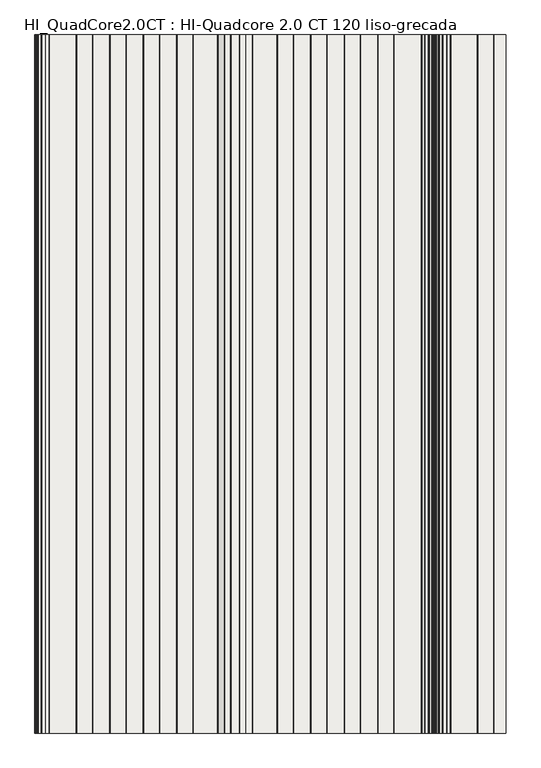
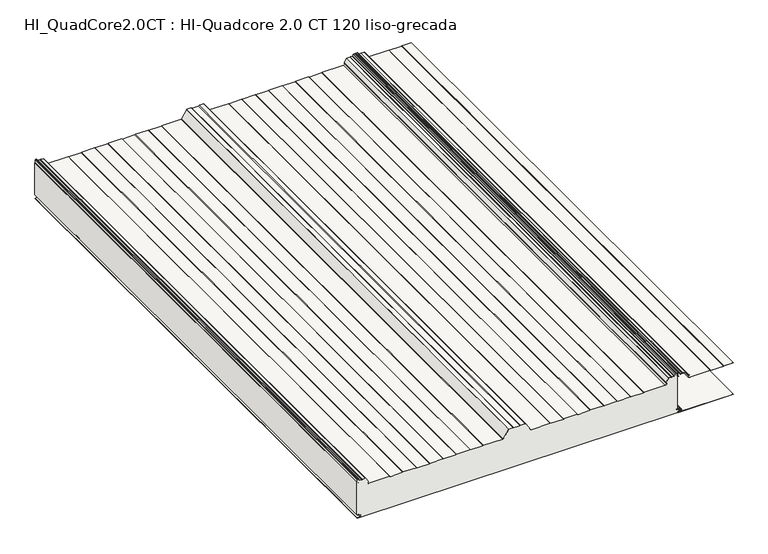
"""IFC4 building model written with IfcOpenShell, lengths in millimetres: slab geometry, HI_QuadCore2.0CT : HI-Quadcore 2.0 CT 120 liso-grecada."""

from ifc_helpers import new_model, si_unit, point, frame, frame_2d, origin, place, context, project, spatial, polyline, circle_curve, trimmed, segment, composite_curve, outline, extrude, source, transform, mapped, element, save
from ifc_brep_helpers import plane_surface, cylinder_surface, revolved_surface, advanced_brep


def hi_quadcore2_0ct_hi_quadcore_2_0_ct_120_liso_grecada_2a2bc950(model_context):
    return source(origin(), model_context, "Body", "SolidModel", [
        advanced_brep(
        [(1155.1475465, 0.0, 135.7425833), (1151.3824194, 0.0, 137.9163804), (1150.0, 0.0, 137.9163804), (1150.0, 0.0, 16.239302), (1157.510215, 0.0, 16.239302), (1157.510215, 0.0, 15.4391074), (1153.6125693, 0.0, 15.4391074), (1152.4319301, 0.0, 14.2584682), (1153.4276302, 0.0, 13.0866965), (1161.8278581, 0.0, 11.7547343), (1161.7995989, 0.0, 4.4809044), (1151.8467032, 0.0, 2.9844289), (1152.0100062, 0.0, 0.8), (2297.9590685, 0.0, 0.8), (2299.3391392, 0.0, 2.1800708), (2302.5664905, 0.0, 5.8294074), (2310.7843221, 0.0, 6.8264698), (2310.7843299, 0.0, 9.4135286), (2300.8450446, 0.0, 10.6192254), (2297.8324398, 0.0, 14.0237344), (2297.2282701, 0.0, 15.44), (2292.7624398, 0.0, 15.44), (2292.7624398, 0.0, 16.239302), (2300.0, 0.0, 16.239302), (2300.0, 0.0, 137.9163804), (2298.8824194, 0.0, 137.9163804), (2295.1172924, 0.0, 135.7425833), (2294.7172924, 0.0, 136.4354036), (2298.5824194, 0.0, 138.6669358), (2298.5824194, 0.0, 148.1), (2297.4824194, 0.0, 149.2), (2293.8888221, 0.0, 149.2), (2292.8725546, 0.0, 148.5209518), (2291.0157992, 0.0, 144.0383476), (2288.8631598, 0.0, 142.6), (2282.1371875, 0.0, 142.6), (2280.4324194, 0.0, 141.8110374), (2278.7276514, 0.0, 142.6), (2269.4004541, 0.0, 142.6), (2268.4939153, 0.0, 142.1230469), (2259.1558806, 0.0, 128.5361221), (2259.356723, 0.0, 127.0692788), (2260.3070878, 0.0, 126.2744554), (2257.4852773, 0.0, 119.2), (2181.3816122, 0.0, 119.2), (2179.6495614, 0.0, 118.2), (2134.6152775, 0.0, 118.2), (2132.8832267, 0.0, 119.2), (2085.3816122, 0.0, 119.2), (2083.6495614, 0.0, 118.2), (2038.6152775, 0.0, 118.2), (2036.8832267, 0.0, 119.2), (1989.3816122, 0.0, 119.2), (1987.6495614, 0.0, 118.2), (1942.6152775, 0.0, 118.2), (1940.8832267, 0.0, 119.2), (1893.3816122, 0.0, 119.2), (1891.6495614, 0.0, 118.2), (1846.6152775, 0.0, 118.2), (1844.8832267, 0.0, 119.2), (1775.9029123, 0.0, 119.2), (1773.9344839, 0.0, 120.2833287), (1755.9445057, 0.0, 148.6885573), (1755.0152048, 0.0, 149.2), (1738.8816122, 0.0, 149.2), (1736.283536, 0.0, 147.7), (1713.9813029, 0.0, 147.7), (1711.3832267, 0.0, 149.2), (1695.2496341, 0.0, 149.2), (1694.3203331, 0.0, 148.6885573), (1676.330355, 0.0, 120.2833287), (1674.3619266, 0.0, 119.2), (1605.3816122, 0.0, 119.2), (1603.6495614, 0.0, 118.2), (1558.6152775, 0.0, 118.2), (1556.8832267, 0.0, 119.2), (1509.3816122, 0.0, 119.2), (1507.6495614, 0.0, 118.2), (1462.6152775, 0.0, 118.2), (1460.8832267, 0.0, 119.2), (1413.3816122, 0.0, 119.2), (1411.6495614, 0.0, 118.2), (1366.6152775, 0.0, 118.2), (1364.8832267, 0.0, 119.2), (1317.3816122, 0.0, 119.2), (1315.6495614, 0.0, 118.2), (1270.6152775, 0.0, 118.2), (1268.8832267, 0.0, 119.2), (1192.7795617, 0.0, 119.2), (1189.9577511, 0.0, 126.2744555), (1190.9081159, 0.0, 127.0692788), (1191.1089583, 0.0, 128.5361221), (1181.7709236, 0.0, 142.1230469), (1180.8643848, 0.0, 142.6), (1171.5371875, 0.0, 142.6), (1169.8324194, 0.0, 141.8110374), (1168.1276514, 0.0, 142.6), (1161.4016791, 0.0, 142.6), (1159.2490397, 0.0, 144.0383476), (1157.3922843, 0.0, 148.5209518), (1156.3760168, 0.0, 149.2), (1152.7824194, 0.0, 149.2), (1151.6824194, 0.0, 148.1), (1151.6824194, 0.0, 138.6669358), (1155.5475465, 0.0, 136.4354036), (1155.1475465, 2000.0, 135.7425833), (1155.5475465, 2000.0, 136.4354036), (1151.6824194, 2000.0, 138.6669358), (1151.6824194, 2000.0, 148.1), (1152.7824194, 2000.0, 149.2), (1156.3760168, 2000.0, 149.2), (1157.3922843, 2000.0, 148.5209518), (1159.2490397, 2000.0, 144.0383476), (1161.4016791, 2000.0, 142.6), (1168.1276514, 2000.0, 142.6), (1169.8324194, 2000.0, 141.8110374), (1171.5371875, 2000.0, 142.6), (1180.8643848, 2000.0, 142.6), (1181.7709236, 2000.0, 142.1230469), (1191.1089583, 2000.0, 128.5361221), (1190.9081159, 2000.0, 127.0692788), (1189.9577511, 2000.0, 126.2744555), (1192.7795617, 2000.0, 119.2), (1268.8832267, 2000.0, 119.2), (1270.6152775, 2000.0, 118.2), (1315.6495614, 2000.0, 118.2), (1317.3816122, 2000.0, 119.2), (1364.8832267, 2000.0, 119.2), (1366.6152775, 2000.0, 118.2), (1411.6495614, 2000.0, 118.2), (1413.3816122, 2000.0, 119.2), (1460.8832267, 2000.0, 119.2), (1462.6152775, 2000.0, 118.2), (1507.6495614, 2000.0, 118.2), (1509.3816122, 2000.0, 119.2), (1556.8832267, 2000.0, 119.2), (1558.6152775, 2000.0, 118.2), (1603.6495614, 2000.0, 118.2), (1605.3816122, 2000.0, 119.2), (1674.3619266, 2000.0, 119.2), (1676.330355, 2000.0, 120.2833287), (1694.3203331, 2000.0, 148.6885573), (1695.2496341, 2000.0, 149.2), (1711.3832267, 2000.0, 149.2), (1713.9813029, 2000.0, 147.7), (1736.283536, 2000.0, 147.7), (1738.8816122, 2000.0, 149.2), (1755.0152048, 2000.0, 149.2), (1755.9445057, 2000.0, 148.6885573), (1773.9344839, 2000.0, 120.2833287), (1775.9029123, 2000.0, 119.2), (1844.8832267, 2000.0, 119.2), (1846.6152775, 2000.0, 118.2), (1891.6495614, 2000.0, 118.2), (1893.3816122, 2000.0, 119.2), (1940.8832267, 2000.0, 119.2), (1942.6152775, 2000.0, 118.2), (1987.6495614, 2000.0, 118.2), (1989.3816122, 2000.0, 119.2), (2036.8832267, 2000.0, 119.2), (2038.6152775, 2000.0, 118.2), (2083.6495614, 2000.0, 118.2), (2085.3816122, 2000.0, 119.2), (2132.8832267, 2000.0, 119.2), (2134.6152775, 2000.0, 118.2), (2179.6495614, 2000.0, 118.2), (2181.3816122, 2000.0, 119.2), (2257.4852773, 2000.0, 119.2), (2260.3070878, 2000.0, 126.2744554), (2259.356723, 2000.0, 127.0692788), (2259.1558806, 2000.0, 128.5361221), (2268.4939153, 2000.0, 142.1230469), (2269.4004541, 2000.0, 142.6), (2278.7276514, 2000.0, 142.6), (2280.4324194, 2000.0, 141.8110374), (2282.1371875, 2000.0, 142.6), (2288.8631598, 2000.0, 142.6), (2291.0157992, 2000.0, 144.0383476), (2292.8725546, 2000.0, 148.5209518), (2293.8888221, 2000.0, 149.2), (2297.4824194, 2000.0, 149.2), (2298.5824194, 2000.0, 148.1), (2298.5824194, 2000.0, 138.6669358), (2294.7172924, 2000.0, 136.4354036), (2295.1172924, 2000.0, 135.7425833), (2298.8824194, 2000.0, 137.9163804), (2300.0, 2000.0, 137.9163804), (2300.0, 2000.0, 16.239302), (2292.7624398, 2000.0, 16.239302), (2292.7624398, 2000.0, 15.44), (2297.2282701, 2000.0, 15.44), (2297.8324398, 2000.0, 14.0237344), (2300.8450446, 2000.0, 10.6192254), (2310.7843299, 2000.0, 9.4135286), (2310.7843221, 2000.0, 6.8264698), (2302.5664905, 2000.0, 5.8294074), (2299.3391392, 2000.0, 2.1800708), (2297.9590685, 2000.0, 0.8), (1152.0100062, 2000.0, 0.8), (1151.8467032, 2000.0, 2.9844289), (1161.7995989, 2000.0, 4.4809044), (1161.8278581, 2000.0, 11.7547343), (1153.4273037, 2000.0, 13.0846342), (1152.4319301, 2000.0, 14.2584682), (1153.6125693, 2000.0, 15.4391074), (1157.510215, 2000.0, 15.4391074), (1157.510215, 2000.0, 16.239302), (1150.0, 2000.0, 16.239302), (1150.0, 2000.0, 137.9163804), (1151.3824194, 2000.0, 137.9163804)],
        [
            (0, 1),
            (1, 2),
            (2, 3),
            (3, 4),
            (4, 5),
            (5, 6),
            (6, 7, circle_curve(frame((1153.6125693, 0.0, 14.2584682), z_axis=(0.0, -1.0, 0.0), x_axis=(1.0, 0.0, 0.0)), 1.1806391)),
            (7, 8, circle_curve(frame((1153.6121809, 0.0, 14.2524448), z_axis=(0.0, -1.0, 0.0), x_axis=(1.0, 0.0, 0.0)), 1.1802661)),
            (8, 9),
            (9, 10, circle_curve(frame((1161.2524398, 0.0, 8.12), z_axis=(0.0, 1.0, 0.0), x_axis=(1.0, 0.0, 0.0)), 3.68)),
            (10, 11),
            (11, 12, circle_curve(frame((1152.0100062, 0.0, 1.8983185), z_axis=(0.0, -1.0, 0.0), x_axis=(1.0, 0.0, 0.0)), 1.0983185)),
            (12, 13),
            (13, 14, circle_curve(frame((2297.9590685, 0.0, 2.1800708), z_axis=(0.0, -1.0, 0.0), x_axis=(1.0, 0.0, 0.0)), 1.3800708)),
            (14, 15, circle_curve(frame((2303.0160638, 0.0, 2.1800708), z_axis=(0.0, 1.0, 0.0), x_axis=(1.0, 0.0, 0.0)), 3.6769246)),
            (15, 16),
            (16, 17, circle_curve(frame((2310.5224398, 0.0, 8.12), z_axis=(0.0, -1.0, 0.0), x_axis=(1.0, 0.0, 0.0)), 1.3197737)),
            (17, 18),
            (18, 19, circle_curve(frame((2301.2624398, 0.0, 14.0237344), z_axis=(0.0, 1.0, 0.0), x_axis=(1.0, 0.0, 0.0)), 3.43)),
            (19, 20, circle_curve(frame((2295.8703839, 0.0, 14.0237344), z_axis=(0.0, -1.0, 0.0), x_axis=(1.0, 0.0, 0.0)), 1.9620559)),
            (20, 21),
            (21, 22),
            (22, 23),
            (23, 24),
            (24, 25),
            (25, 26),
            (26, 27),
            (27, 28),
            (28, 29),
            (29, 30, circle_curve(frame((2297.4824194, 0.0, 148.1), z_axis=(0.0, -1.0, 0.0), x_axis=(1.0, 0.0, 0.0)), 1.1)),
            (30, 31),
            (31, 32, circle_curve(frame((2293.8888221, 0.0, 148.1), z_axis=(0.0, -1.0, 0.0), x_axis=(1.0, 0.0, 0.0)), 1.1)),
            (32, 33),
            (33, 34, circle_curve(frame((2288.8631598, 0.0, 144.93), z_axis=(0.0, 1.0, 0.0), x_axis=(1.0, 0.0, 0.0)), 2.33)),
            (34, 35),
            (35, 36),
            (36, 37),
            (37, 38),
            (38, 39, circle_curve(frame((2269.4004541, 0.0, 141.5), z_axis=(0.0, -1.0, 0.0), x_axis=(1.0, 0.0, 0.0)), 1.1)),
            (39, 40),
            (40, 41, circle_curve(frame((2260.0624194, 0.0, 127.9130753), z_axis=(0.0, -1.0, 0.0), x_axis=(1.0, 0.0, 0.0)), 1.1)),
            (41, 42),
            (42, 43, circle_curve(frame((2257.4852773, 0.0, 123.3), z_axis=(0.0, 1.0, 0.0), x_axis=(1.0, 0.0, 0.0)), 4.1)),
            (43, 44),
            (44, 45),
            (45, 46),
            (46, 47),
            (47, 48),
            (48, 49),
            (49, 50),
            (50, 51),
            (51, 52),
            (52, 53),
            (53, 54),
            (54, 55),
            (55, 56),
            (56, 57),
            (57, 58),
            (58, 59),
            (59, 60),
            (60, 61, circle_curve(frame((1775.9029123, 0.0, 121.53), z_axis=(0.0, 1.0, 0.0), x_axis=(1.0, 0.0, 0.0)), 2.33)),
            (61, 62),
            (62, 63, circle_curve(frame((1755.0152048, 0.0, 148.1), z_axis=(0.0, -1.0, 0.0), x_axis=(1.0, 0.0, 0.0)), 1.1)),
            (63, 64),
            (64, 65),
            (65, 66),
            (66, 67),
            (67, 68),
            (68, 69, circle_curve(frame((1695.2496341, 0.0, 148.1), z_axis=(0.0, -1.0, 0.0), x_axis=(1.0, 0.0, 0.0)), 1.1)),
            (69, 70),
            (70, 71, circle_curve(frame((1674.3619266, 0.0, 121.53), z_axis=(0.0, 1.0, 0.0), x_axis=(1.0, 0.0, 0.0)), 2.33)),
            (71, 72),
            (72, 73),
            (73, 74),
            (74, 75),
            (75, 76),
            (76, 77),
            (77, 78),
            (78, 79),
            (79, 80),
            (80, 81),
            (81, 82),
            (82, 83),
            (83, 84),
            (84, 85),
            (85, 86),
            (86, 87),
            (87, 88),
            (88, 89, circle_curve(frame((1192.7795617, 0.0, 123.3), z_axis=(0.0, 1.0, 0.0), x_axis=(1.0, 0.0, 0.0)), 4.1)),
            (89, 90),
            (90, 91, circle_curve(frame((1190.2024195, 0.0, 127.9130752), z_axis=(0.0, -1.0, 0.0), x_axis=(1.0, 0.0, 0.0)), 1.1)),
            (91, 92),
            (92, 93, circle_curve(frame((1180.8643848, 0.0, 141.5), z_axis=(0.0, -1.0, 0.0), x_axis=(1.0, 0.0, 0.0)), 1.1)),
            (93, 94),
            (94, 95),
            (95, 96),
            (96, 97),
            (97, 98, circle_curve(frame((1161.4016791, 0.0, 144.93), z_axis=(0.0, 1.0, 0.0), x_axis=(1.0, 0.0, 0.0)), 2.33)),
            (98, 99),
            (99, 100, circle_curve(frame((1156.3760168, 0.0, 148.1), z_axis=(0.0, -1.0, 0.0), x_axis=(1.0, 0.0, 0.0)), 1.1)),
            (100, 101),
            (101, 102, circle_curve(frame((1152.7824194, 0.0, 148.1), z_axis=(0.0, -1.0, 0.0), x_axis=(1.0, 0.0, 0.0)), 1.1)),
            (102, 103),
            (103, 104),
            (104, 0),
            (105, 106),
            (106, 107),
            (107, 108),
            (108, 109, circle_curve(frame((1152.7824194, 2000.0, 148.1), z_axis=(0.0, 1.0, 0.0), x_axis=(1.0, 0.0, 0.0)), 1.1)),
            (109, 110),
            (110, 111, circle_curve(frame((1156.3760168, 2000.0, 148.1), z_axis=(0.0, 1.0, 0.0), x_axis=(1.0, 0.0, 0.0)), 1.1)),
            (111, 112),
            (112, 113, circle_curve(frame((1161.4016791, 2000.0, 144.93), z_axis=(0.0, -1.0, 0.0), x_axis=(1.0, 0.0, 0.0)), 2.33)),
            (113, 114),
            (114, 115),
            (115, 116),
            (116, 117),
            (117, 118, circle_curve(frame((1180.8643848, 2000.0, 141.5), z_axis=(0.0, 1.0, 0.0), x_axis=(1.0, 0.0, 0.0)), 1.1)),
            (118, 119),
            (119, 120, circle_curve(frame((1190.2024195, 2000.0, 127.9130752), z_axis=(0.0, 1.0, 0.0), x_axis=(1.0, 0.0, 0.0)), 1.1)),
            (120, 121),
            (121, 122, circle_curve(frame((1192.7795617, 2000.0, 123.3), z_axis=(0.0, -1.0, 0.0), x_axis=(1.0, 0.0, 0.0)), 4.1)),
            (122, 123),
            (123, 124),
            (124, 125),
            (125, 126),
            (126, 127),
            (127, 128),
            (128, 129),
            (129, 130),
            (130, 131),
            (131, 132),
            (132, 133),
            (133, 134),
            (134, 135),
            (135, 136),
            (136, 137),
            (137, 138),
            (138, 139),
            (139, 140, circle_curve(frame((1674.3619266, 2000.0, 121.53), z_axis=(0.0, -1.0, 0.0), x_axis=(1.0, 0.0, 0.0)), 2.33)),
            (140, 141),
            (141, 142, circle_curve(frame((1695.2496341, 2000.0, 148.1), z_axis=(0.0, 1.0, 0.0), x_axis=(1.0, 0.0, 0.0)), 1.1)),
            (142, 143),
            (143, 144),
            (144, 145),
            (145, 146),
            (146, 147),
            (147, 148, circle_curve(frame((1755.0152048, 2000.0, 148.1), z_axis=(0.0, 1.0, 0.0), x_axis=(1.0, 0.0, 0.0)), 1.1)),
            (148, 149),
            (149, 150, circle_curve(frame((1775.9029123, 2000.0, 121.53), z_axis=(0.0, -1.0, 0.0), x_axis=(1.0, 0.0, 0.0)), 2.33)),
            (150, 151),
            (151, 152),
            (152, 153),
            (153, 154),
            (154, 155),
            (155, 156),
            (156, 157),
            (157, 158),
            (158, 159),
            (159, 160),
            (160, 161),
            (161, 162),
            (162, 163),
            (163, 164),
            (164, 165),
            (165, 166),
            (166, 167),
            (167, 168, circle_curve(frame((2257.4852773, 2000.0, 123.3), z_axis=(0.0, -1.0, 0.0), x_axis=(1.0, 0.0, 0.0)), 4.1)),
            (168, 169),
            (169, 170, circle_curve(frame((2260.0624194, 2000.0, 127.9130753), z_axis=(0.0, 1.0, 0.0), x_axis=(1.0, 0.0, 0.0)), 1.1)),
            (170, 171),
            (171, 172, circle_curve(frame((2269.4004541, 2000.0, 141.5), z_axis=(0.0, 1.0, 0.0), x_axis=(1.0, 0.0, 0.0)), 1.1)),
            (172, 173),
            (173, 174),
            (174, 175),
            (175, 176),
            (176, 177, circle_curve(frame((2288.8631598, 2000.0, 144.93), z_axis=(0.0, -1.0, 0.0), x_axis=(1.0, 0.0, 0.0)), 2.33)),
            (177, 178),
            (178, 179, circle_curve(frame((2293.8888221, 2000.0, 148.1), z_axis=(0.0, 1.0, 0.0), x_axis=(1.0, 0.0, 0.0)), 1.1)),
            (179, 180),
            (180, 181, circle_curve(frame((2297.4824194, 2000.0, 148.1), z_axis=(0.0, 1.0, 0.0), x_axis=(1.0, 0.0, 0.0)), 1.1)),
            (181, 182),
            (182, 183),
            (183, 184),
            (184, 185),
            (185, 186),
            (186, 187),
            (187, 188),
            (188, 189),
            (189, 190),
            (190, 191, circle_curve(frame((2295.8703839, 2000.0, 14.0237344), z_axis=(0.0, 1.0, 0.0), x_axis=(1.0, 0.0, 0.0)), 1.9620559)),
            (191, 192, circle_curve(frame((2301.2624398, 2000.0, 14.0237344), z_axis=(0.0, -1.0, 0.0), x_axis=(1.0, 0.0, 0.0)), 3.43)),
            (192, 193),
            (193, 194, circle_curve(frame((2310.5224398, 2000.0, 8.12), z_axis=(0.0, 1.0, 0.0), x_axis=(1.0, 0.0, 0.0)), 1.3197737)),
            (194, 195),
            (195, 196, circle_curve(frame((2303.0160638, 2000.0, 2.1800708), z_axis=(0.0, -1.0, 0.0), x_axis=(1.0, 0.0, 0.0)), 3.6769246)),
            (196, 197, circle_curve(frame((2297.9590685, 2000.0, 2.1800708), z_axis=(0.0, 1.0, 0.0), x_axis=(1.0, 0.0, 0.0)), 1.3800708)),
            (197, 198),
            (198, 199, circle_curve(frame((1152.0100062, 2000.0, 1.8983185), z_axis=(0.0, 1.0, 0.0), x_axis=(1.0, 0.0, 0.0)), 1.0983185)),
            (199, 200),
            (200, 201, circle_curve(frame((1161.2524398, 2000.0, 8.12), z_axis=(0.0, -1.0, 0.0), x_axis=(1.0, 0.0, 0.0)), 3.68)),
            (201, 202),
            (202, 203, circle_curve(frame((1153.6121809, 2000.0, 14.2524448), z_axis=(0.0, 1.0, 0.0), x_axis=(1.0, 0.0, 0.0)), 1.1802661)),
            (203, 204, circle_curve(frame((1153.6125693, 2000.0, 14.2584682), z_axis=(0.0, 1.0, 0.0), x_axis=(1.0, 0.0, 0.0)), 1.1806391)),
            (204, 205),
            (205, 206),
            (206, 207),
            (207, 208),
            (208, 209),
            (209, 105),
            (0, 105),
            (209, 1),
            (208, 2),
            (207, 3),
            (186, 24),
            (23, 187),
            (185, 25),
            (184, 26),
            (183, 27),
            (182, 28),
            (181, 29),
            (180, 30),
            (179, 31),
            (178, 32),
            (177, 33),
            (176, 34),
            (175, 35),
            (174, 36),
            (173, 37),
            (172, 38),
            (171, 39),
            (170, 40),
            (169, 41),
            (168, 42),
            (167, 43),
            (166, 44),
            (165, 45),
            (164, 46),
            (163, 47),
            (162, 48),
            (161, 49),
            (160, 50),
            (159, 51),
            (158, 52),
            (157, 53),
            (156, 54),
            (155, 55),
            (154, 56),
            (153, 57),
            (152, 58),
            (151, 59),
            (150, 60),
            (149, 61),
            (148, 62),
            (147, 63),
            (146, 64),
            (145, 65),
            (144, 66),
            (143, 67),
            (142, 68),
            (141, 69),
            (140, 70),
            (139, 71),
            (138, 72),
            (137, 73),
            (136, 74),
            (135, 75),
            (134, 76),
            (133, 77),
            (132, 78),
            (131, 79),
            (130, 80),
            (129, 81),
            (128, 82),
            (127, 83),
            (126, 84),
            (125, 85),
            (124, 86),
            (123, 87),
            (122, 88),
            (121, 89),
            (120, 90),
            (119, 91),
            (118, 92),
            (117, 93),
            (116, 94),
            (115, 95),
            (114, 96),
            (113, 97),
            (112, 98),
            (111, 99),
            (110, 100),
            (109, 101),
            (108, 102),
            (107, 103),
            (106, 104),
            (22, 188),
            (206, 4),
            (205, 5),
            (204, 6),
            (203, 7),
            (202, 8),
            (201, 9),
            (200, 10),
            (199, 11),
            (198, 12),
            (197, 13),
            (196, 14),
            (195, 15),
            (194, 16),
            (193, 17),
            (192, 18),
            (191, 19),
            (190, 20),
            (189, 21),
        ],
        [
            plane_surface(frame((1151.3824194, 0.0, 137.9163804), z_axis=(0.0, -1.0, 0.0), x_axis=(-0.8660254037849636, 0.0, 0.4999999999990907))),
            plane_surface(frame((1151.3824194, 2000.0, 137.9163804), z_axis=(0.0, 1.0, 0.0), x_axis=(0.8660254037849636, 0.0, -0.4999999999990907))),
            plane_surface(frame((1155.1475465, 0.0, 135.7425833), z_axis=(0.4999999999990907, 0.0, 0.8660254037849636), x_axis=(0.0, 1.0, 0.0))),
            plane_surface(frame((1151.3824194, 0.0, 137.9163804), z_axis=(0.0, 0.0, 1.0), x_axis=(0.0, 1.0, 0.0))),
            plane_surface(frame((1150.0, 0.0, 137.9163804), z_axis=(-1.0, 0.0, 0.0), x_axis=(0.0, 1.0, 0.0))),
            plane_surface(frame((2300.0, 0.0, 110.0), z_axis=(1.0, 0.0, 0.0), x_axis=(0.0, 1.0, 0.0))),
            plane_surface(frame((2300.0, 0.0, 137.9163804), z_axis=(0.0, 0.0, 1.0), x_axis=(0.0, 1.0, 0.0))),
            plane_surface(frame((2298.8824194, 0.0, 137.9163804), z_axis=(-0.4999999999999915, 0.0, 0.8660254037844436), x_axis=(0.0, 1.0, 0.0))),
            plane_surface(frame((2295.1172924, 0.0, 135.7425833), z_axis=(0.8660254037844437, 0.0, 0.49999999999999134), x_axis=(0.0, 1.0, 0.0))),
            plane_surface(frame((2294.7172924, 0.0, 136.4354036), z_axis=(0.4999999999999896, 0.0, -0.8660254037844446), x_axis=(0.0, 1.0, 0.0))),
            plane_surface(frame((2298.5824194, 0.0, 138.6669358), z_axis=(1.0, 0.0, 0.0), x_axis=(0.0, 1.0, 0.0))),
            cylinder_surface(frame((2297.4824194, 2000.0, 148.1), z_axis=(0.0, -1.0, 0.0), x_axis=(1.0, 0.0, 0.0)), 1.1),
            plane_surface(frame((2297.4824194, 0.0, 149.2), z_axis=(0.0, 0.0, 1.0), x_axis=(0.0, 1.0, 0.0))),
            cylinder_surface(frame((2293.8888221, 2000.0, 148.1), z_axis=(0.0, -1.0, 0.0), x_axis=(1.0, 0.0, 0.0)), 1.1),
            plane_surface(frame((2292.8725546, 0.0, 148.5209518), z_axis=(-0.9238795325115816, 0.0, 0.3826834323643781), x_axis=(0.0, 1.0, 0.0))),
            revolved_surface(polyline([(2291.1931598, 2000.0, 144.93), (2291.1931598, 0.0, 144.93)]), (2288.8631598, 2000.0, 144.93), (0.0, 1.0, 0.0)),
            plane_surface(frame((2288.8631598, 0.0, 142.6), z_axis=(0.0, 0.0, 1.0), x_axis=(0.0, 1.0, 0.0))),
            plane_surface(frame((2282.1371875, 0.0, 142.6), z_axis=(-0.4199999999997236, 0.0, 0.9075241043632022), x_axis=(0.0, 1.0, 0.0))),
            plane_surface(frame((2280.4324194, 0.0, 141.8110374), z_axis=(0.42000000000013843, 0.0, 0.9075241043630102), x_axis=(0.0, 1.0, 0.0))),
            plane_surface(frame((2278.7276514, 0.0, 142.6), z_axis=(0.0, 0.0, 1.0), x_axis=(0.0, 1.0, 0.0))),
            cylinder_surface(frame((2269.4004541, 2000.0, 141.5), z_axis=(0.0, -1.0, 0.0), x_axis=(1.0, 0.0, 0.0)), 1.1),
            plane_surface(frame((2268.4939153, 0.0, 142.1230469), z_axis=(-0.824126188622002, 0.0, 0.5664062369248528), x_axis=(0.0, 1.0, 0.0))),
            cylinder_surface(frame((2260.0624194, 2000.0, 127.9130753), z_axis=(0.0, -1.0, 0.0), x_axis=(1.0, 0.0, 0.0)), 1.1),
            plane_surface(frame((2259.356723, 0.0, 127.0692788), z_axis=(-0.6415422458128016, 0.0, -0.7670877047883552), x_axis=(0.0, 1.0, 0.0))),
            revolved_surface(polyline([(2261.5852772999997, 2000.0, 123.3), (2261.5852772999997, 0.0, 123.3)]), (2257.4852773, 2000.0, 123.3), (0.0, 1.0, 0.0)),
            plane_surface(frame((2257.4852773, 0.0, 119.2), z_axis=(0.0, 0.0, 1.0), x_axis=(0.0, 1.0, 0.0))),
            plane_surface(frame((2181.3816122, 0.0, 119.2), z_axis=(-0.4999999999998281, 0.0, 0.866025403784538), x_axis=(0.0, 1.0, 0.0))),
            plane_surface(frame((2179.6495614, 0.0, 118.2), z_axis=(0.0, 0.0, 1.0), x_axis=(0.0, 1.0, 0.0))),
            plane_surface(frame((2134.6152775, 0.0, 118.2), z_axis=(0.499999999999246, 0.0, 0.866025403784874), x_axis=(0.0, 1.0, 0.0))),
            plane_surface(frame((2132.8832267, 0.0, 119.2), z_axis=(0.0, 0.0, 1.0), x_axis=(0.0, 1.0, 0.0))),
            plane_surface(frame((2085.3816122, 0.0, 119.2), z_axis=(-0.49999999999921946, 0.0, 0.8660254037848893), x_axis=(0.0, 1.0, 0.0))),
            plane_surface(frame((2083.6495614, 0.0, 118.2), z_axis=(0.0, 0.0, 1.0), x_axis=(0.0, 1.0, 0.0))),
            plane_surface(frame((2038.6152775, 0.0, 118.2), z_axis=(0.4999999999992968, 0.0, 0.8660254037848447), x_axis=(0.0, 1.0, 0.0))),
            plane_surface(frame((2036.8832267, 0.0, 119.2), z_axis=(0.0, 0.0, 1.0), x_axis=(0.0, 1.0, 0.0))),
            plane_surface(frame((1989.3816122, 0.0, 119.2), z_axis=(-0.4999999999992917, 0.0, 0.8660254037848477), x_axis=(0.0, 1.0, 0.0))),
            plane_surface(frame((1987.6495614, 0.0, 118.2), z_axis=(0.0, 0.0, 1.0), x_axis=(0.0, 1.0, 0.0))),
            plane_surface(frame((1942.6152775, 0.0, 118.2), z_axis=(0.49999999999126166, 0.0, 0.8660254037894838), x_axis=(0.0, 1.0, 0.0))),
            plane_surface(frame((1940.8832267, 0.0, 119.2), z_axis=(0.0, 0.0, 1.0), x_axis=(0.0, 1.0, 0.0))),
            plane_surface(frame((1893.3816122, 0.0, 119.2), z_axis=(-0.5000000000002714, 0.0, 0.8660254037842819), x_axis=(0.0, 1.0, 0.0))),
            plane_surface(frame((1891.6495614, 0.0, 118.2), z_axis=(0.0, 0.0, 1.0), x_axis=(0.0, 1.0, 0.0))),
            plane_surface(frame((1846.6152775, 0.0, 118.2), z_axis=(0.5000000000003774, 0.0, 0.8660254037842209), x_axis=(0.0, 1.0, 0.0))),
            plane_surface(frame((1844.8832267, 0.0, 119.2), z_axis=(0.0, 0.0, 1.0), x_axis=(0.0, 1.0, 0.0))),
            revolved_surface(polyline([(1778.2329123, 2000.0, 121.53), (1778.2329123, 0.0, 121.53)]), (1775.9029123, 2000.0, 121.53), (0.0, 1.0, 0.0)),
            plane_surface(frame((1773.9344839, 0.0, 120.2833287), z_axis=(0.8448190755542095, 0.0, 0.5350520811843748), x_axis=(0.0, 1.0, 0.0))),
            cylinder_surface(frame((1755.0152048, 2000.0, 148.1), z_axis=(0.0, -1.0, 0.0), x_axis=(1.0, 0.0, 0.0)), 1.1),
            plane_surface(frame((1755.0152048, 0.0, 149.2), z_axis=(0.0, 0.0, 1.0), x_axis=(0.0, 1.0, 0.0))),
            plane_surface(frame((1738.8816122, 0.0, 149.2), z_axis=(-0.4999999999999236, 0.0, 0.8660254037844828), x_axis=(0.0, 1.0, 0.0))),
            plane_surface(frame((1736.283536, 0.0, 147.7), z_axis=(0.0, 0.0, 1.0), x_axis=(0.0, 1.0, 0.0))),
            plane_surface(frame((1713.9813029, 0.0, 147.7), z_axis=(0.5000000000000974, 0.0, 0.8660254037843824), x_axis=(0.0, 1.0, 0.0))),
            plane_surface(frame((1711.3832267, 0.0, 149.2), z_axis=(0.0, 0.0, 1.0), x_axis=(0.0, 1.0, 0.0))),
            cylinder_surface(frame((1695.2496341, 2000.0, 148.1), z_axis=(0.0, -1.0, 0.0), x_axis=(1.0, 0.0, 0.0)), 1.1),
            plane_surface(frame((1694.3203331, 0.0, 148.6885573), z_axis=(-0.8448190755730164, 0.0, 0.5350520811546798), x_axis=(0.0, 1.0, 0.0))),
            revolved_surface(polyline([(1676.6919266, 2000.0, 121.53), (1676.6919266, 0.0, 121.53)]), (1674.3619266, 2000.0, 121.53), (0.0, 1.0, 0.0)),
            plane_surface(frame((1674.3619266, 0.0, 119.2), z_axis=(0.0, 0.0, 1.0), x_axis=(0.0, 1.0, 0.0))),
            plane_surface(frame((1605.3816122, 0.0, 119.2), z_axis=(-0.5000000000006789, 0.0, 0.8660254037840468), x_axis=(0.0, 1.0, 0.0))),
            plane_surface(frame((1603.6495614, 0.0, 118.2), z_axis=(0.0, 0.0, 1.0), x_axis=(0.0, 1.0, 0.0))),
            plane_surface(frame((1558.6152775, 0.0, 118.2), z_axis=(0.49999999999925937, 0.0, 0.8660254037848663), x_axis=(0.0, 1.0, 0.0))),
            plane_surface(frame((1556.8832267, 0.0, 119.2), z_axis=(0.0, 0.0, 1.0), x_axis=(0.0, 1.0, 0.0))),
            plane_surface(frame((1509.3816122, 0.0, 119.2), z_axis=(-0.500000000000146, 0.0, 0.8660254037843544), x_axis=(0.0, 1.0, 0.0))),
            plane_surface(frame((1507.6495614, 0.0, 118.2), z_axis=(0.0, 0.0, 1.0), x_axis=(0.0, 1.0, 0.0))),
            plane_surface(frame((1462.6152775, 0.0, 118.2), z_axis=(0.49999999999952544, 0.0, 0.8660254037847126), x_axis=(0.0, 1.0, 0.0))),
            plane_surface(frame((1460.8832267, 0.0, 119.2), z_axis=(0.0, 0.0, 1.0), x_axis=(0.0, 1.0, 0.0))),
            plane_surface(frame((1413.3816122, 0.0, 119.2), z_axis=(-0.4999999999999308, 0.0, 0.8660254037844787), x_axis=(0.0, 1.0, 0.0))),
            plane_surface(frame((1411.6495614, 0.0, 118.2), z_axis=(0.0, 0.0, 1.0), x_axis=(0.0, 1.0, 0.0))),
            plane_surface(frame((1366.6152775, 0.0, 118.2), z_axis=(0.500000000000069, 0.0, 0.866025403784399), x_axis=(0.0, 1.0, 0.0))),
            plane_surface(frame((1364.8832267, 0.0, 119.2), z_axis=(0.0, 0.0, 1.0), x_axis=(0.0, 1.0, 0.0))),
            plane_surface(frame((1317.3816122, 0.0, 119.2), z_axis=(-0.5000000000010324, 0.0, 0.8660254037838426), x_axis=(0.0, 1.0, 0.0))),
            plane_surface(frame((1315.6495614, 0.0, 118.2), z_axis=(0.0, 0.0, 1.0), x_axis=(0.0, 1.0, 0.0))),
            plane_surface(frame((1270.6152775, 0.0, 118.2), z_axis=(0.4999999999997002, 0.0, 0.8660254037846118), x_axis=(0.0, 1.0, 0.0))),
            plane_surface(frame((1268.8832267, 0.0, 119.2), z_axis=(0.0, 0.0, 1.0), x_axis=(0.0, 1.0, 0.0))),
            revolved_surface(polyline([(1196.8795616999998, 2000.0, 123.3), (1196.8795616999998, 0.0, 123.3)]), (1192.7795617, 2000.0, 123.3), (0.0, 1.0, 0.0)),
            plane_surface(frame((1189.9577511, 0.0, 126.2744555), z_axis=(0.6415422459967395, 0.0, -0.7670877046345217), x_axis=(0.0, 1.0, 0.0))),
            cylinder_surface(frame((1190.2024195, 2000.0, 127.9130752), z_axis=(0.0, -1.0, 0.0), x_axis=(1.0, 0.0, 0.0)), 1.1),
            plane_surface(frame((1191.1089583, 0.0, 128.5361221), z_axis=(0.8241261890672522, 0.0, 0.5664062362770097), x_axis=(0.0, 1.0, 0.0))),
            cylinder_surface(frame((1180.8643848, 2000.0, 141.5), z_axis=(0.0, -1.0, 0.0), x_axis=(1.0, 0.0, 0.0)), 1.1),
            plane_surface(frame((1180.8643848, 0.0, 142.6), z_axis=(0.0, 0.0, 1.0), x_axis=(0.0, 1.0, 0.0))),
            plane_surface(frame((1171.5371875, 0.0, 142.6), z_axis=(-0.4199999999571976, 0.0, 0.9075241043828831), x_axis=(0.0, 1.0, 0.0))),
            plane_surface(frame((1169.8324194, 0.0, 141.8110374), z_axis=(0.4200000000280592, 0.0, 0.9075241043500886), x_axis=(0.0, 1.0, 0.0))),
            plane_surface(frame((1168.1276514, 0.0, 142.6), z_axis=(0.0, 0.0, 1.0), x_axis=(0.0, 1.0, 0.0))),
            revolved_surface(polyline([(1163.7316790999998, 2000.0, 144.93), (1163.7316790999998, 0.0, 144.93)]), (1161.4016791, 2000.0, 144.93), (0.0, 1.0, 0.0)),
            plane_surface(frame((1159.2490397, 0.0, 144.0383476), z_axis=(0.9238795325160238, 0.0, 0.3826834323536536), x_axis=(0.0, 1.0, 0.0))),
            cylinder_surface(frame((1156.3760168, 2000.0, 148.1), z_axis=(0.0, -1.0, 0.0), x_axis=(1.0, 0.0, 0.0)), 1.1),
            plane_surface(frame((1156.3760168, 0.0, 149.2), z_axis=(0.0, 0.0, 1.0), x_axis=(0.0, 1.0, 0.0))),
            cylinder_surface(frame((1152.7824194, 2000.0, 148.1), z_axis=(0.0, -1.0, 0.0), x_axis=(1.0, 0.0, 0.0)), 1.1),
            plane_surface(frame((1151.6824194, 0.0, 148.1), z_axis=(-1.0, 0.0, 0.0), x_axis=(0.0, 1.0, 0.0))),
            plane_surface(frame((1151.6824194, 0.0, 138.6669358), z_axis=(-0.49999999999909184, 0.0, -0.866025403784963), x_axis=(0.0, 1.0, 0.0))),
            plane_surface(frame((1155.5475465, 0.0, 136.4354036), z_axis=(-0.866025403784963, 0.0, 0.4999999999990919), x_axis=(0.0, 1.0, 0.0))),
            plane_surface(frame((1150.0, 0.0, 16.239302), z_axis=(0.0, 0.0, -1.0), x_axis=(0.0, 1.0, 0.0))),
            plane_surface(frame((1157.510215, 0.0, 16.239302), z_axis=(-1.0, 0.0, 0.0), x_axis=(0.0, 1.0, 0.0))),
            plane_surface(frame((1157.510215, 0.0, 15.4391074), z_axis=(0.0, 0.0, 1.0), x_axis=(0.0, 1.0, 0.0))),
            cylinder_surface(frame((1153.6125693, 2000.0, 14.2584682), z_axis=(0.0, -1.0, 0.0), x_axis=(1.0, 0.0, 0.0)), 1.1806391),
            cylinder_surface(frame((1153.6121809, 2000.0, 14.2524448), z_axis=(0.0, -1.0, 0.0), x_axis=(1.0, 0.0, 0.0)), 1.1802661),
            plane_surface(frame((1153.4273037, 0.0, 13.0846342), z_axis=(-0.1563636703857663, 0.0, -0.9876995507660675), x_axis=(0.0, 1.0, 0.0))),
            revolved_surface(polyline([(1164.9324398, 2000.0, 8.12), (1164.9324398, 0.0, 8.12)]), (1161.2524398, 2000.0, 8.12), (0.0, 1.0, 0.0)),
            plane_surface(frame((1161.7995989, 0.0, 4.4809044), z_axis=(-0.14868453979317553, 0.0, 0.9888846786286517), x_axis=(0.0, 1.0, 0.0))),
            cylinder_surface(frame((1152.0100062, 2000.0, 1.8983185), z_axis=(0.0, -1.0, 0.0), x_axis=(1.0, 0.0, 0.0)), 1.0983185),
            plane_surface(frame((1152.0100062, 0.0, 0.8), z_axis=(0.0, 0.0, -1.0), x_axis=(0.0, 1.0, 0.0))),
            cylinder_surface(frame((2297.9590685, 2000.0, 2.1800708), z_axis=(0.0, -1.0, 0.0), x_axis=(1.0, 0.0, 0.0)), 1.3800708),
            revolved_surface(polyline([(2306.6929884, 2000.0, 2.1800708), (2306.6929884, 0.0, 2.1800708)]), (2303.0160638, 2000.0, 2.1800708), (0.0, 1.0, 0.0)),
            plane_surface(frame((2302.5664905, 0.0, 5.8294074), z_axis=(0.12044584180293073, 0.0, -0.9927198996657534), x_axis=(0.0, 1.0, 0.0))),
            cylinder_surface(frame((2310.5224398, 2000.0, 8.12), z_axis=(0.0, -1.0, 0.0), x_axis=(1.0, 0.0, 0.0)), 1.3197737),
            plane_surface(frame((2310.7843299, 0.0, 9.4135286), z_axis=(0.12042339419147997, 0.0, 0.9927226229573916), x_axis=(0.0, 1.0, 0.0))),
            revolved_surface(polyline([(2304.6924397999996, 2000.0, 14.0237344), (2304.6924397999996, 0.0, 14.0237344)]), (2301.2624398, 2000.0, 14.0237344), (0.0, 1.0, 0.0)),
            cylinder_surface(frame((2295.8703839, 2000.0, 14.0237344), z_axis=(0.0, -1.0, 0.0), x_axis=(1.0, 0.0, 0.0)), 1.9620559),
            plane_surface(frame((2297.2282701, 0.0, 15.44), z_axis=(0.0, 0.0, 1.0), x_axis=(0.0, 1.0, 0.0))),
            plane_surface(frame((2292.7624398, 0.0, 15.44), z_axis=(1.0, 0.0, 0.0), x_axis=(0.0, 1.0, 0.0))),
        ],
        [
            (0, [[1, 2, 3, 4, 5, 6, 7, 8, 9, 10, 11, 12, 13, 14, 15, 16, 17, 18, 19, 20, 21, 22, 23, 24, 25, 26, 27, 28, 29, 30, 31, 32, 33, 34, 35, 36, 37, 38, 39, 40, 41, 42, 43, 44, 45, 46, 47, 48, 49, 50, 51, 52, 53, 54, 55, 56, 57, 58, 59, 60, 61, 62, 63, 64, 65, 66, 67, 68, 69, 70, 71, 72, 73, 74, 75, 76, 77, 78, 79, 80, 81, 82, 83, 84, 85, 86, 87, 88, 89, 90, 91, 92, 93, 94, 95, 96, 97, 98, 99, 100, 101, 102, 103, 104, 105]]),
            (1, [[106, 107, 108, 109, 110, 111, 112, 113, 114, 115, 116, 117, 118, 119, 120, 121, 122, 123, 124, 125, 126, 127, 128, 129, 130, 131, 132, 133, 134, 135, 136, 137, 138, 139, 140, 141, 142, 143, 144, 145, 146, 147, 148, 149, 150, 151, 152, 153, 154, 155, 156, 157, 158, 159, 160, 161, 162, 163, 164, 165, 166, 167, 168, 169, 170, 171, 172, 173, 174, 175, 176, 177, 178, 179, 180, 181, 182, 183, 184, 185, 186, 187, 188, 189, 190, 191, 192, 193, 194, 195, 196, 197, 198, 199, 200, 201, 202, 203, 204, 205, 206, 207, 208, 209, 210]]),
            (2, [[-1, 211, -210, 212]]),
            (3, [[-2, -212, -209, 213]]),
            (4, [[-213, -208, 214, -3]]),
            (5, [[215, -24, 216, -187]]),
            (6, [[-25, -215, -186, 217]]),
            (7, [[-26, -217, -185, 218]]),
            (8, [[-27, -218, -184, 219]]),
            (9, [[-28, -219, -183, 220]]),
            (10, [[-29, -220, -182, 221]]),
            (11, [[-30, -221, -181, 222]]),
            (12, [[-31, -222, -180, 223]]),
            (13, [[-32, -223, -179, 224]]),
            (14, [[-33, -224, -178, 225]]),
            (15, [[-34, -225, -177, 226]]),
            (16, [[-35, -226, -176, 227]]),
            (17, [[-36, -227, -175, 228]]),
            (18, [[-37, -228, -174, 229]]),
            (19, [[-38, -229, -173, 230]]),
            (20, [[-39, -230, -172, 231]]),
            (21, [[-40, -231, -171, 232]]),
            (22, [[-41, -232, -170, 233]]),
            (23, [[-42, -233, -169, 234]]),
            (24, [[-43, -234, -168, 235]]),
            (25, [[-44, -235, -167, 236]]),
            (26, [[-45, -236, -166, 237]]),
            (27, [[-46, -237, -165, 238]]),
            (28, [[-47, -238, -164, 239]]),
            (29, [[-48, -239, -163, 240]]),
            (30, [[-49, -240, -162, 241]]),
            (31, [[-50, -241, -161, 242]]),
            (32, [[-51, -242, -160, 243]]),
            (33, [[-52, -243, -159, 244]]),
            (34, [[-53, -244, -158, 245]]),
            (35, [[-54, -245, -157, 246]]),
            (36, [[-55, -246, -156, 247]]),
            (37, [[-56, -247, -155, 248]]),
            (38, [[-57, -248, -154, 249]]),
            (39, [[-58, -249, -153, 250]]),
            (40, [[-59, -250, -152, 251]]),
            (41, [[-60, -251, -151, 252]]),
            (42, [[-61, -252, -150, 253]]),
            (43, [[-62, -253, -149, 254]]),
            (44, [[-63, -254, -148, 255]]),
            (45, [[-64, -255, -147, 256]]),
            (46, [[-65, -256, -146, 257]]),
            (47, [[-66, -257, -145, 258]]),
            (48, [[-67, -258, -144, 259]]),
            (49, [[-68, -259, -143, 260]]),
            (50, [[-69, -260, -142, 261]]),
            (51, [[-70, -261, -141, 262]]),
            (52, [[-71, -262, -140, 263]]),
            (53, [[-72, -263, -139, 264]]),
            (54, [[-73, -264, -138, 265]]),
            (55, [[-74, -265, -137, 266]]),
            (56, [[-75, -266, -136, 267]]),
            (57, [[-76, -267, -135, 268]]),
            (58, [[-77, -268, -134, 269]]),
            (59, [[-78, -269, -133, 270]]),
            (60, [[-79, -270, -132, 271]]),
            (61, [[-80, -271, -131, 272]]),
            (62, [[-81, -272, -130, 273]]),
            (63, [[-82, -273, -129, 274]]),
            (64, [[-83, -274, -128, 275]]),
            (65, [[-84, -275, -127, 276]]),
            (66, [[-85, -276, -126, 277]]),
            (67, [[-86, -277, -125, 278]]),
            (68, [[-87, -278, -124, 279]]),
            (69, [[-88, -279, -123, 280]]),
            (70, [[-89, -280, -122, 281]]),
            (71, [[-90, -281, -121, 282]]),
            (72, [[-91, -282, -120, 283]]),
            (73, [[-92, -283, -119, 284]]),
            (74, [[-93, -284, -118, 285]]),
            (75, [[-94, -285, -117, 286]]),
            (76, [[-95, -286, -116, 287]]),
            (77, [[-96, -287, -115, 288]]),
            (78, [[-97, -288, -114, 289]]),
            (79, [[-98, -289, -113, 290]]),
            (80, [[-99, -290, -112, 291]]),
            (81, [[-100, -291, -111, 292]]),
            (82, [[-101, -292, -110, 293]]),
            (83, [[-102, -293, -109, 294]]),
            (84, [[-103, -294, -108, 295]]),
            (85, [[-104, -295, -107, 296]]),
            (86, [[-105, -296, -106, -211]]),
            (87, [[-216, -23, 297, -188]]),
            (87, [[-214, -207, 298, -4]]),
            (88, [[-5, -298, -206, 299]]),
            (89, [[-6, -299, -205, 300]]),
            (90, [[-7, -300, -204, 301]]),
            (91, [[-8, -301, -203, 302]]),
            (92, [[-9, -302, -202, 303]]),
            (93, [[-10, -303, -201, 304]]),
            (94, [[-11, -304, -200, 305]]),
            (95, [[-12, -305, -199, 306]]),
            (96, [[-13, -306, -198, 307]]),
            (97, [[-14, -307, -197, 308]]),
            (98, [[-15, -308, -196, 309]]),
            (99, [[-16, -309, -195, 310]]),
            (100, [[-17, -310, -194, 311]]),
            (101, [[-18, -311, -193, 312]]),
            (102, [[-19, -312, -192, 313]]),
            (103, [[-20, -313, -191, 314]]),
            (104, [[-21, -314, -190, 315]]),
            (105, [[-22, -315, -189, -297]]),
        ],
    ),
        advanced_brep(
        [(2303.6125412, 0.0, 16.239302), (2301.6320413, 0.0, 14.2588021), (2303.3026044, 0.0, 12.2960661), (2311.7027672, 0.0, 10.9645747), (2311.6806488, 0.0, 5.2720118), (2301.7277556, 0.0, 3.7755366), (2302.0100062, 0.0, 0.0), (2500.0, 0.0, 0.0), (2500.0, 0.0, 0.8), (2302.0100062, 0.0, 0.8), (2301.8467032, 0.0, 2.9844289), (2311.7995989, 0.0, 4.4809044), (2311.8278581, 0.0, 11.7547343), (2303.4279307, 0.0, 13.084535), (2302.4319301, 0.0, 14.2584682), (2303.6125693, 0.0, 15.4391074), (2307.510215, 0.0, 15.4391074), (2307.510215, 0.0, 16.239302), (2303.6125412, 2000.0, 16.239302), (2307.510215, 2000.0, 16.239302), (2307.510215, 2000.0, 15.4391074), (2303.6125693, 2000.0, 15.4391074), (2302.4319301, 2000.0, 14.2584682), (2303.4276302, 2000.0, 13.0866965), (2311.8278581, 2000.0, 11.7547343), (2311.7995989, 2000.0, 4.4809044), (2301.8467032, 2000.0, 2.9844289), (2302.0100062, 2000.0, 0.8), (2500.0, 2000.0, 0.8), (2500.0, 2000.0, 0.0), (2302.0100062, 2000.0, 0.0), (2301.7277556, 2000.0, 3.7755366), (2311.6806488, 2000.0, 5.2720118), (2311.7027672, 2000.0, 10.9645747), (2303.3028397, 2000.0, 12.2943753), (2301.6320413, 2000.0, 14.2588021)],
        [
            (0, 1, circle_curve(frame((2303.6125412, 0.0, 14.2588021), z_axis=(0.0, -1.0, 0.0), x_axis=(1.0, 0.0, 0.0)), 1.9804999)),
            (1, 2, circle_curve(frame((2303.612237, 0.0, 14.2519163), z_axis=(0.0, -1.0, 0.0), x_axis=(1.0, 0.0, 0.0)), 1.9802076)),
            (2, 3),
            (3, 4, circle_curve(frame((2311.2524398, 0.0, 8.12), z_axis=(0.0, 1.0, 0.0), x_axis=(1.0, 0.0, 0.0)), 2.88)),
            (4, 5),
            (5, 6, circle_curve(frame((2302.0100062, 0.0, 1.8983185), z_axis=(0.0, -1.0, 0.0), x_axis=(1.0, 0.0, 0.0)), 1.8983185)),
            (6, 7),
            (7, 8),
            (8, 9),
            (9, 10, circle_curve(frame((2302.0100062, 0.0, 1.8983185), z_axis=(0.0, 1.0, 0.0), x_axis=(1.0, 0.0, 0.0)), 1.0983185)),
            (10, 11),
            (11, 12, circle_curve(frame((2311.2524398, 0.0, 8.12), z_axis=(0.0, -1.0, 0.0), x_axis=(1.0, 0.0, 0.0)), 3.68)),
            (12, 13),
            (13, 14, circle_curve(frame((2303.6121809, 0.0, 14.2524448), z_axis=(0.0, 1.0, 0.0), x_axis=(1.0, 0.0, 0.0)), 1.1802661)),
            (14, 15, circle_curve(frame((2303.6125693, 0.0, 14.2584682), z_axis=(0.0, 1.0, 0.0), x_axis=(1.0, 0.0, 0.0)), 1.1806391)),
            (15, 16),
            (16, 17),
            (17, 0),
            (18, 19),
            (19, 20),
            (20, 21),
            (21, 22, circle_curve(frame((2303.6125693, 2000.0, 14.2584682), z_axis=(0.0, -1.0, 0.0), x_axis=(1.0, 0.0, 0.0)), 1.1806391)),
            (22, 23, circle_curve(frame((2303.6121809, 2000.0, 14.2524448), z_axis=(0.0, -1.0, 0.0), x_axis=(1.0, 0.0, 0.0)), 1.1802661)),
            (23, 24),
            (24, 25, circle_curve(frame((2311.2524398, 2000.0, 8.12), z_axis=(0.0, 1.0, 0.0), x_axis=(1.0, 0.0, 0.0)), 3.68)),
            (25, 26),
            (26, 27, circle_curve(frame((2302.0100062, 2000.0, 1.8983185), z_axis=(0.0, -1.0, 0.0), x_axis=(1.0, 0.0, 0.0)), 1.0983185)),
            (27, 28),
            (28, 29),
            (29, 30),
            (30, 31, circle_curve(frame((2302.0100062, 2000.0, 1.8983185), z_axis=(0.0, 1.0, 0.0), x_axis=(1.0, 0.0, 0.0)), 1.8983185)),
            (31, 32),
            (32, 33, circle_curve(frame((2311.2524398, 2000.0, 8.12), z_axis=(0.0, -1.0, 0.0), x_axis=(1.0, 0.0, 0.0)), 2.88)),
            (33, 34),
            (34, 35, circle_curve(frame((2303.612237, 2000.0, 14.2519163), z_axis=(0.0, 1.0, 0.0), x_axis=(1.0, 0.0, 0.0)), 1.9802076)),
            (35, 18, circle_curve(frame((2303.6125412, 2000.0, 14.2588021), z_axis=(0.0, 1.0, 0.0), x_axis=(1.0, 0.0, 0.0)), 1.9804999)),
            (0, 18),
            (35, 1),
            (34, 2),
            (33, 3),
            (32, 4),
            (31, 5),
            (30, 6),
            (29, 7),
            (27, 9),
            (8, 28),
            (26, 10),
            (25, 11),
            (24, 12),
            (23, 13),
            (22, 14),
            (21, 15),
            (20, 16),
            (19, 17),
        ],
        [
            plane_surface(frame((2305.5930411, 0.0, 14.2588021), z_axis=(0.0, -1.0, 0.0), x_axis=(0.0, 0.0, 1.0))),
            plane_surface(frame((2305.5930411, 2000.0, 14.2588021), z_axis=(0.0, 1.0, 0.0), x_axis=(0.0, 0.0, -1.0))),
            cylinder_surface(frame((2303.6125412, 2000.0, 14.2588021), z_axis=(0.0, -1.0, 0.0), x_axis=(1.0, 0.0, 0.0)), 1.9804999),
            cylinder_surface(frame((2303.612237, 2000.0, 14.2519163), z_axis=(0.0, -1.0, 0.0), x_axis=(1.0, 0.0, 0.0)), 1.9802076),
            plane_surface(frame((2303.3028397, 0.0, 12.2943753), z_axis=(-0.15636367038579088, 0.0, -0.9876995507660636), x_axis=(0.0, 1.0, 0.0))),
            revolved_surface(polyline([(2314.1324398, 2000.0, 8.12), (2314.1324398, 0.0, 8.12)]), (2311.2524398, 2000.0, 8.12), (0.0, 1.0, 0.0)),
            plane_surface(frame((2311.6806488, 0.0, 5.2720118), z_axis=(-0.14868453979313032, 0.0, 0.9888846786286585), x_axis=(0.0, 1.0, 0.0))),
            cylinder_surface(frame((2302.0100062, 2000.0, 1.8983185), z_axis=(0.0, -1.0, 0.0), x_axis=(1.0, 0.0, 0.0)), 1.8983185),
            plane_surface(frame((2302.0100062, 0.0, 0.0), z_axis=(0.0, 0.0, -1.0), x_axis=(0.0, 1.0, 0.0))),
            plane_surface(frame((3450.0, 0.0, 0.8), z_axis=(0.0, 0.0, 1.0), x_axis=(0.0, 1.0, 0.0))),
            revolved_surface(polyline([(2303.1083247, 2000.0, 1.8983185), (2303.1083247, 0.0, 1.8983185)]), (2302.0100062, 2000.0, 1.8983185), (0.0, 1.0, 0.0)),
            plane_surface(frame((2301.8467032, 0.0, 2.9844289), z_axis=(0.14868453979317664, 0.0, -0.9888846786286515), x_axis=(0.0, 1.0, 0.0))),
            cylinder_surface(frame((2311.2524398, 2000.0, 8.12), z_axis=(0.0, -1.0, 0.0), x_axis=(1.0, 0.0, 0.0)), 3.68),
            plane_surface(frame((2311.8278581, 0.0, 11.7547343), z_axis=(0.15636367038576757, 0.0, 0.9876995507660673), x_axis=(0.0, 1.0, 0.0))),
            revolved_surface(polyline([(2304.7924470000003, 2000.0, 14.2524448), (2304.7924470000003, 0.0, 14.2524448)]), (2303.6121809, 2000.0, 14.2524448), (0.0, 1.0, 0.0)),
            revolved_surface(polyline([(2304.7932084, 2000.0, 14.2584682), (2304.7932084, 0.0, 14.2584682)]), (2303.6125693, 2000.0, 14.2584682), (0.0, 1.0, 0.0)),
            plane_surface(frame((2303.6125693, 0.0, 15.4391074), z_axis=(0.0, 0.0, -1.0), x_axis=(0.0, 1.0, 0.0))),
            plane_surface(frame((2307.510215, 0.0, 15.4391074), z_axis=(1.0, 0.0, 0.0), x_axis=(0.0, 1.0, 0.0))),
            plane_surface(frame((2307.510215, 0.0, 16.239302), z_axis=(0.0, 0.0, 1.0), x_axis=(0.0, 1.0, 0.0))),
            plane_surface(frame((2500.0, 0.0, 27.9692099), z_axis=(1.0, 0.0, 0.0), x_axis=(0.0, 1.0, 0.0))),
        ],
        [
            (0, [[1, 2, 3, 4, 5, 6, 7, 8, 9, 10, 11, 12, 13, 14, 15, 16, 17, 18]]),
            (1, [[19, 20, 21, 22, 23, 24, 25, 26, 27, 28, 29, 30, 31, 32, 33, 34, 35, 36]]),
            (2, [[-1, 37, -36, 38]]),
            (3, [[-2, -38, -35, 39]]),
            (4, [[-3, -39, -34, 40]]),
            (5, [[-4, -40, -33, 41]]),
            (6, [[-5, -41, -32, 42]]),
            (7, [[-6, -42, -31, 43]]),
            (8, [[-43, -30, 44, -7]]),
            (9, [[45, -9, 46, -28]]),
            (10, [[-10, -45, -27, 47]]),
            (11, [[-11, -47, -26, 48]]),
            (12, [[-12, -48, -25, 49]]),
            (13, [[-13, -49, -24, 50]]),
            (14, [[-14, -50, -23, 51]]),
            (15, [[-15, -51, -22, 52]]),
            (16, [[-16, -52, -21, 53]]),
            (17, [[-17, -53, -20, 54]]),
            (18, [[-18, -54, -19, -37]]),
            (19, [[-8, -44, -29, -46]]),
        ],
    ),
        extrude(outline(composite_curve([segment(polyline([(137.9163804, 2301.3824194), (135.7425833, 2305.1475465), (136.4354036, 2305.5475465), (138.6669358, 2301.6824194), (148.1, 2301.6824194)]), True, "CONTINUOUS"), segment(trimmed(circle_curve(frame_2d((148.1, 2302.7824194)), 1.1), [point((148.1, 2301.6824194))], [point((149.2, 2302.7824194))], True, "CARTESIAN"), True, "CONTINUOUS"), segment(polyline([(149.2, 2302.7824194), (149.2, 2306.3760168)]), True, "CONTINUOUS"), segment(trimmed(circle_curve(frame_2d((148.1, 2306.3760168)), 1.1), [point((149.2, 2306.3760168))], [point((148.5209518, 2307.3922843))], True, "CARTESIAN"), True, "CONTINUOUS"), segment(polyline([(148.5209518, 2307.3922843), (144.0383476, 2309.2490397)]), True, "CONTINUOUS"), segment(trimmed(circle_curve(frame_2d((144.93, 2311.4016791)), 2.33), [point((144.0383476, 2309.2490397))], [point((142.6, 2311.4016791))], False, "CARTESIAN"), True, "CONTINUOUS"), segment(polyline([(142.6, 2311.4016791), (142.6, 2318.1276514), (141.8110374, 2319.8324194), (142.6, 2321.5371875), (142.6, 2330.8643848)]), True, "CONTINUOUS"), segment(trimmed(circle_curve(frame_2d((141.5, 2330.8643848)), 1.1), [point((142.6, 2330.8643848))], [point((142.1230469, 2331.7709236))], True, "CARTESIAN"), True, "CONTINUOUS"), segment(polyline([(142.1230469, 2331.7709236), (128.5361221, 2341.1089583)]), True, "CONTINUOUS"), segment(trimmed(circle_curve(frame_2d((127.9130752, 2340.2024195)), 1.1), [point((128.5361221, 2341.1089583))], [point((127.0692788, 2340.9081159))], True, "CARTESIAN"), True, "CONTINUOUS"), segment(polyline([(127.0692788, 2340.9081159), (126.2744555, 2339.9577511)]), True, "CONTINUOUS"), segment(trimmed(circle_curve(frame_2d((123.3, 2342.7795617)), 4.1), [point((126.2744555, 2339.9577511))], [point((119.2, 2342.7795617))], False, "CARTESIAN"), True, "CONTINUOUS"), segment(polyline([(119.2, 2342.7795617), (119.2, 2418.8832267), (118.2, 2420.6152775), (118.2, 2465.6495614), (119.2, 2467.3816122), (119.2, 2500.0), (120.0, 2500.0), (120.0, 2467.5691766)]), True, "CONTINUOUS"), segment(trimmed(circle_curve(frame_2d((118.5, 2467.5691766)), 1.5), [point((120.0, 2467.5691766))], [point((119.7990381, 2466.8191766))], False, "CARTESIAN"), True, "CONTINUOUS"), segment(polyline([(119.7990381, 2466.8191766), (119.0, 2465.435202), (119.0, 2420.8296369), (119.7990381, 2419.4456623)]), True, "CONTINUOUS"), segment(trimmed(circle_curve(frame_2d((118.5, 2418.6956623)), 1.5), [point((119.7990381, 2419.4456623))], [point((120.0, 2418.6956623))], False, "CARTESIAN"), True, "CONTINUOUS"), segment(polyline([(120.0, 2418.6956623), (120.0, 2342.7795617)]), True, "CONTINUOUS"), segment(trimmed(circle_curve(frame_2d((123.3, 2342.7795617)), 3.3), [point((120.0, 2342.7795617))], [point((125.6777166, 2340.4912296))], True, "CARTESIAN"), True, "CONTINUOUS"), segment(polyline([(125.6777166, 2340.4912296), (126.4556086, 2341.4213497)]), True, "CONTINUOUS"), segment(trimmed(circle_curve(frame_2d((127.9130752, 2340.2024195)), 1.9), [point((126.4556086, 2341.4213497))], [point((128.9892471, 2341.7682592))], False, "CARTESIAN"), True, "CONTINUOUS"), segment(polyline([(128.9892471, 2341.7682592), (142.5761719, 2332.4302246)]), True, "CONTINUOUS"), segment(trimmed(circle_curve(frame_2d((141.5, 2330.8643848)), 1.9), [point((142.5761719, 2332.4302246))], [point((143.4, 2330.8643848))], False, "CARTESIAN"), True, "CONTINUOUS"), segment(polyline([(143.4, 2330.8643848), (143.4, 2321.3610429), (142.6925567, 2319.8324194), (143.4, 2318.303796), (143.4, 2311.4016791)]), True, "CONTINUOUS"), segment(trimmed(circle_curve(frame_2d((144.93, 2311.4016791)), 1.53), [point((143.4, 2311.4016791))], [point((144.3444944, 2309.9881434))], True, "CARTESIAN"), True, "CONTINUOUS"), segment(polyline([(144.3444944, 2309.9881434), (148.8270985, 2308.1313879)]), True, "CONTINUOUS"), segment(trimmed(circle_curve(frame_2d((148.1, 2306.3760168)), 1.9), [point((148.8270985, 2308.1313879))], [point((150.0, 2306.3760168))], False, "CARTESIAN"), True, "CONTINUOUS"), segment(polyline([(150.0, 2306.3760168), (150.0, 2302.7824194)]), True, "CONTINUOUS"), segment(trimmed(circle_curve(frame_2d((148.1, 2302.7824194)), 1.9), [point((150.0, 2302.7824194))], [point((148.1, 2300.8824194))], False, "CARTESIAN"), True, "CONTINUOUS"), segment(polyline([(148.1, 2300.8824194), (138.7824058, 2300.8824194)]), True, "CONTINUOUS"), segment(trimmed(circle_curve(frame_2d((138.7824058, 2301.8824194)), 1.0), [point((138.7824058, 2300.8824194))], [point((137.9163804, 2301.3824194))], False, "CARTESIAN"), True, "CONTINUOUS")], self_intersect=False)), frame((0.0, 0.0, 0.0), z_axis=(0.0, 1.0, 0.0), x_axis=(0.0, 0.0, 1.0)), (0.0, 0.0, 1.0), 2000.0),
    ])


if __name__ == "__main__":
    model = new_model("IFC4")
    model_context = context("Model", 3, world=origin())
    ifc_project = project(units=[si_unit("LENGTHUNIT", "METRE", prefix="MILLI")], contexts=[model_context])
    site = spatial("IfcSite", under=ifc_project)
    building = spatial("IfcBuilding", under=site)
    placement = place(None, origin())
    hi_quadcore2_0ct_hi_quadcore_2_0_ct_120_liso_grecada_shape = hi_quadcore2_0ct_hi_quadcore_2_0_ct_120_liso_grecada_2a2bc950(model_context)
    element("IfcSlab", 1, ObjectType="HI_QuadCore2.0CT : HI-Quadcore 2.0 CT 120 liso-grecada", at=placement, inside=building, context=model_context, shape_type="MappedRepresentation", body=[
        mapped(hi_quadcore2_0ct_hi_quadcore_2_0_ct_120_liso_grecada_shape, transform((0.0, 0.0, 0.0), x_axis=(1.0, 0.0, 0.0), y_axis=(0.0, 1.0, 0.0), z_axis=(0.0, 0.0, 1.0))),
    ])
    save(model, "model.ifc")
